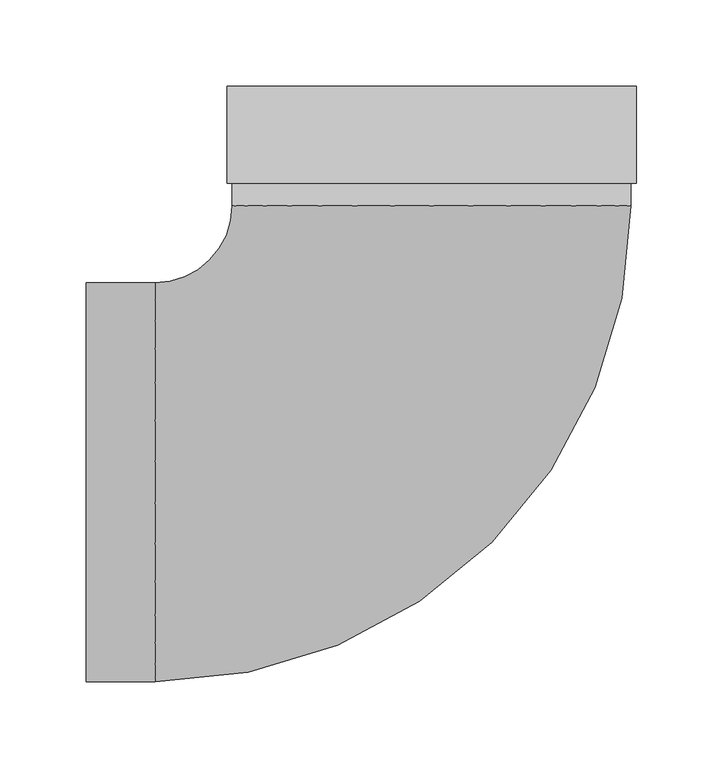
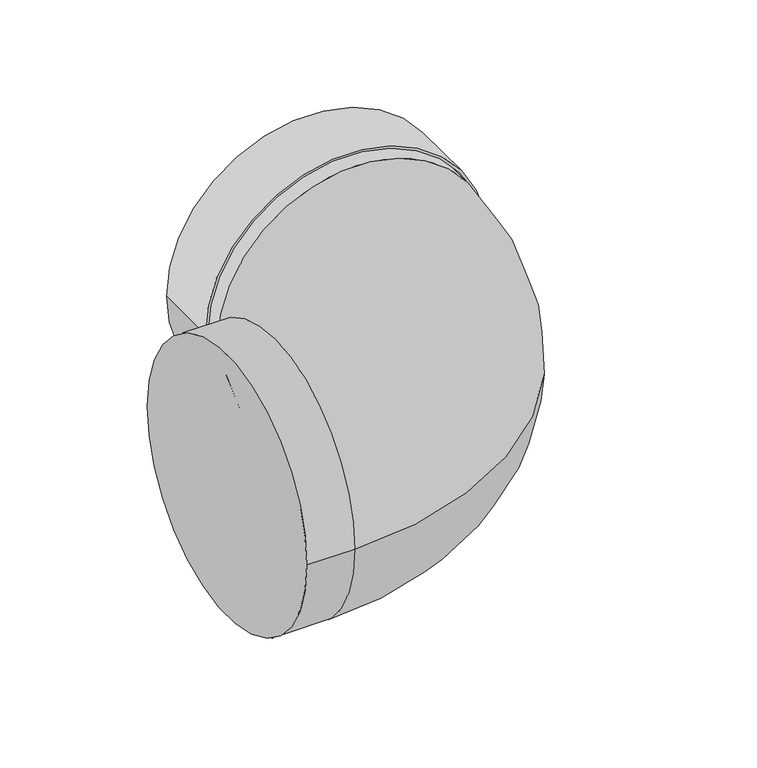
"""IFC4 building model written with IfcOpenShell, lengths in millimetres: duct fitting geometry, NLRS_57_DUF_UN_bend EPS_M&G : ø125 - ø200."""

from ifc_helpers import new_model, si_unit, point, frame, origin, place, context, project, spatial, polyline, circle_curve, ellipse_curve, trimmed, source, transform, mapped, element, save
from ifc_brep_helpers import plane_surface, cylinder_surface, revolved_surface, advanced_brep


def duct_fitting_aea39c0b(model_context):
    return source(origin(), model_context, "Body", "AdvancedBrep", [
        advanced_brep(
        [(118.5, 173.0, 0.0), (-118.5, 173.0, 0.0), (-118.5, 229.0, 0.0), (118.5, 229.0, 0.0), (116.5, 173.0, 0.0), (-116.5, 173.0, 0.0), (116.5, 200.0, 0.0), (-116.5, 200.0, 0.0), (114.5, 200.0, 0.0), (-114.5, 200.0, 0.0), (116.5, 202.0, 0.0), (-116.5, 202.0, 0.0), (-114.5, 202.0, 0.0), (114.5, 202.0, 0.0), (116.5, 229.0, 0.0), (-116.5, 229.0, 0.0)],
        [
            (0, 1, circle_curve(frame((0.0, 173.0, 0.0), z_axis=(0.0, 1.0, 0.0), x_axis=(-1.0, 0.0, 0.0)), 118.5)),
            (1, 2),
            (2, 3, circle_curve(frame((0.0, 229.0, 0.0), z_axis=(0.0, -1.0, 0.0), x_axis=(-1.0, 0.0, 0.0)), 118.5)),
            (3, 0),
            (1, 0, circle_curve(frame((0.0, 173.0, 0.0), z_axis=(0.0, 1.0, 0.0), x_axis=(-1.0, 0.0, 0.0)), 118.5)),
            (3, 2, circle_curve(frame((0.0, 229.0, 0.0), z_axis=(0.0, -1.0, 0.0), x_axis=(-1.0, 0.0, 0.0)), 118.5)),
            (4, 5, circle_curve(frame((0.0, 173.0, 0.0), z_axis=(0.0, 1.0, 0.0), x_axis=(-1.0, 0.0, 0.0)), 116.5)),
            (5, 1),
            (0, 4),
            (5, 4, circle_curve(frame((0.0, 173.0, 0.0), z_axis=(0.0, 1.0, 0.0), x_axis=(-1.0, 0.0, 0.0)), 116.5)),
            (6, 7, circle_curve(frame((0.0, 200.0, 0.0), z_axis=(0.0, 1.0, 0.0), x_axis=(-1.0, 0.0, 0.0)), 116.5)),
            (7, 5),
            (4, 6),
            (7, 6, circle_curve(frame((0.0, 200.0, 0.0), z_axis=(0.0, 1.0, 0.0), x_axis=(-1.0, 0.0, 0.0)), 116.5)),
            (8, 9, circle_curve(frame((0.0, 200.0, 0.0), z_axis=(0.0, 1.0, 0.0), x_axis=(-1.0, 0.0, 0.0)), 114.5)),
            (9, 7),
            (6, 8),
            (9, 8, circle_curve(frame((0.0, 200.0, 0.0), z_axis=(0.0, 1.0, 0.0), x_axis=(-1.0, 0.0, 0.0)), 114.5)),
            (10, 11, circle_curve(frame((0.0, 202.0, 0.0), z_axis=(0.0, 1.0, 0.0), x_axis=(-1.0, 0.0, 0.0)), 116.5)),
            (11, 12),
            (12, 13, circle_curve(frame((0.0, 202.0, 0.0), z_axis=(0.0, -1.0, 0.0), x_axis=(-1.0, 0.0, 0.0)), 114.5)),
            (13, 10),
            (11, 10, circle_curve(frame((0.0, 202.0, 0.0), z_axis=(0.0, 1.0, 0.0), x_axis=(-1.0, 0.0, 0.0)), 116.5)),
            (13, 12, circle_curve(frame((0.0, 202.0, 0.0), z_axis=(0.0, -1.0, 0.0), x_axis=(-1.0, 0.0, 0.0)), 114.5)),
            (14, 15, circle_curve(frame((0.0, 229.0, 0.0), z_axis=(0.0, 1.0, 0.0), x_axis=(-1.0, 0.0, 0.0)), 116.5)),
            (15, 11),
            (10, 14),
            (15, 14, circle_curve(frame((0.0, 229.0, 0.0), z_axis=(0.0, 1.0, 0.0), x_axis=(-1.0, 0.0, 0.0)), 116.5)),
            (2, 15),
            (14, 3),
            (12, 9),
            (8, 13),
        ],
        [
            cylinder_surface(frame((0.0, 2176.5, 0.0), z_axis=(0.0, -1.0, 0.0), x_axis=(-1.0, 0.0, 0.0)), 118.5),
            plane_surface(frame((0.0, 173.0, 0.0), z_axis=(0.0, -1.0, 0.0), x_axis=(-1.0, 0.0, 0.0))),
            revolved_surface(polyline([(-116.5, 173.0, 0.0), (-116.5, 200.0, 0.0)]), (0.0, 2176.5, 0.0), (0.0, -1.0, 0.0)),
            plane_surface(frame((0.0, 200.0, 0.0), z_axis=(0.0, -1.0, 0.0), x_axis=(-1.0, 0.0, 0.0))),
            plane_surface(frame((0.0, 202.0, 0.0), z_axis=(0.0, 1.0, 0.0), x_axis=(-1.0, 0.0, 0.0))),
            revolved_surface(polyline([(-116.5, 202.0, 0.0), (-116.5, 229.0, 0.0)]), (0.0, 2176.5, 0.0), (0.0, -1.0, 0.0)),
            plane_surface(frame((0.0, 229.0, 0.0), z_axis=(0.0, 1.0, 0.0), x_axis=(-1.0, 0.0, 0.0))),
            revolved_surface(polyline([(-114.5, 200.0, 0.0), (-114.5, 202.0, 0.0)]), (0.0, 2176.5, 0.0), (0.0, -1.0, 0.0)),
        ],
        [
            (0, [[1, 2, 3, 4]]),
            (0, [[5, -4, 6, -2]]),
            (1, [[7, 8, -1, 9]]),
            (1, [[10, -9, -5, -8]]),
            (2, [[11, 12, -7, 13]]),
            (2, [[14, -13, -10, -12]]),
            (3, [[15, 16, -11, 17]]),
            (3, [[18, -17, -14, -16]]),
            (4, [[19, 20, 21, 22]]),
            (4, [[23, -22, 24, -20]]),
            (5, [[25, 26, -19, 27]]),
            (5, [[28, -27, -23, -26]]),
            (6, [[-3, 29, -25, 30]]),
            (6, [[-6, -30, -28, -29]]),
            (7, [[-21, 31, -15, 32]]),
            (7, [[-24, -32, -18, -31]]),
        ],
    ),
        advanced_brep(
        [(-200.0, -115.5, 0.0), (-200.0, 115.5, 0.0), (-160.0, -115.5, 0.0), (-160.0, 115.5, 0.0), (-115.5, 160.0, 0.0), (115.5, 160.0, 0.0), (115.5, 200.0, 0.0), (-115.5, 200.0, 0.0)],
        [
            (0, 1, circle_curve(frame((-200.0, 0.0, 0.0), z_axis=(-1.0, 0.0, 0.0), x_axis=(0.0, 1.0, 0.0)), 115.5)),
            (1, 0, circle_curve(frame((-200.0, 0.0, 0.0), z_axis=(-1.0, 0.0, 0.0), x_axis=(0.0, 1.0, 0.0)), 115.5)),
            (0, 2),
            (2, 3, circle_curve(frame((-160.0, 0.0, 0.0), z_axis=(-1.0, 0.0, 0.0), x_axis=(0.0, 1.0, 0.0)), 115.5)),
            (3, 1),
            (3, 2, circle_curve(frame((-160.0, 0.0, 0.0), z_axis=(-1.0, 0.0, 0.0), x_axis=(0.0, 1.0, 0.0)), 115.5)),
            (4, 3, circle_curve(frame((-160.0, 160.0, 0.0), z_axis=(0.0, 0.0, -1.0), x_axis=(0.0, -1.0, 0.0)), 44.5)),
            (2, 5, circle_curve(frame((-160.0, 160.0, 0.0), z_axis=(0.0, 0.0, 1.0), x_axis=(0.0, -1.0, 0.0)), 275.5)),
            (5, 4, circle_curve(frame((0.0, 160.0, 0.0), z_axis=(0.0, -1.0, 0.0), x_axis=(-1.0, 0.0, 0.0)), 115.5)),
            (4, 5, circle_curve(frame((0.0, 160.0, 0.0), z_axis=(0.0, -1.0, 0.0), x_axis=(-1.0, 0.0, 0.0)), 115.5)),
            (6, 7, circle_curve(frame((0.0, 200.0, 0.0), z_axis=(0.0, 1.0, 0.0), x_axis=(-1.0, 0.0, 0.0)), 115.5)),
            (7, 6, circle_curve(frame((0.0, 200.0, 0.0), z_axis=(0.0, 1.0, 0.0), x_axis=(-1.0, 0.0, 0.0)), 115.5)),
            (5, 6),
            (7, 4),
        ],
        [
            plane_surface(frame((-200.0, 0.0, 0.0), z_axis=(-1.0, 0.0, 0.0), x_axis=(0.0, 0.0, 1.0))),
            cylinder_surface(frame((-200.0, 0.0, 0.0), z_axis=(-1.0, 0.0, 0.0), x_axis=(0.0, 1.0, 0.0)), 115.5),
            revolved_surface(trimmed(ellipse_curve(frame((-160.0, 0.0, 0.0), z_axis=(-1.0, 0.0, 0.0), x_axis=(0.0, 1.0, 0.0)), 115.5, 115.5), [point((-160.0, -115.5, 0.0))], [point((-160.0, 115.5, 0.0))], True, "CARTESIAN"), (-160.0, 160.0, 0.0), (0.0, 0.0, 1.0)),
            revolved_surface(trimmed(ellipse_curve(frame((-160.0, 0.0, 0.0), z_axis=(-1.0, 0.0, 0.0), x_axis=(0.0, 1.0, 0.0)), 115.5, 115.5), [point((-160.0, 115.5, 0.0))], [point((-160.0, -115.5, 0.0))], True, "CARTESIAN"), (-160.0, 160.0, 0.0), (0.0, 0.0, 1.0)),
            plane_surface(frame((0.0, 200.0, 0.0), z_axis=(0.0, 1.0, 0.0), x_axis=(0.0, 0.0, 1.0))),
            cylinder_surface(frame((0.0, 160.0, 0.0), z_axis=(0.0, -1.0, 0.0), x_axis=(-1.0, 0.0, 0.0)), 115.5),
        ],
        [
            (0, [[1, 2]]),
            (1, [[-1, 3, 4, 5]]),
            (1, [[-2, -5, 6, -3]]),
            (2, [[7, -4, 8, 9]]),
            (3, [[-8, -6, -7, 10]]),
            (4, [[11, 12]]),
            (5, [[-9, 13, -12, 14]]),
            (5, [[-10, -14, -11, -13]]),
        ],
    ),
    ])


if __name__ == "__main__":
    model = new_model("IFC4")
    model_context = context("Model", 3, world=origin())
    ifc_project = project(units=[si_unit("LENGTHUNIT", "METRE", prefix="MILLI")], contexts=[model_context])
    site = spatial("IfcSite", under=ifc_project)
    building = spatial("IfcBuilding", under=site)
    placement = place(None, origin())
    duct_fitting_shape = duct_fitting_aea39c0b(model_context)
    element("IfcDuctFitting", 1, ObjectType="NLRS_57_DUF_UN_bend EPS_M&G : ø125 - ø200", at=placement, inside=building, context=model_context, shape_type="MappedRepresentation", body=[
        mapped(duct_fitting_shape, transform((0.0, 0.0, 0.0), x_axis=(1.0, 0.0, 0.0), y_axis=(0.0, 1.0, 0.0), z_axis=(0.0, 0.0, 1.0))),
    ])
    save(model, "model.ifc")
